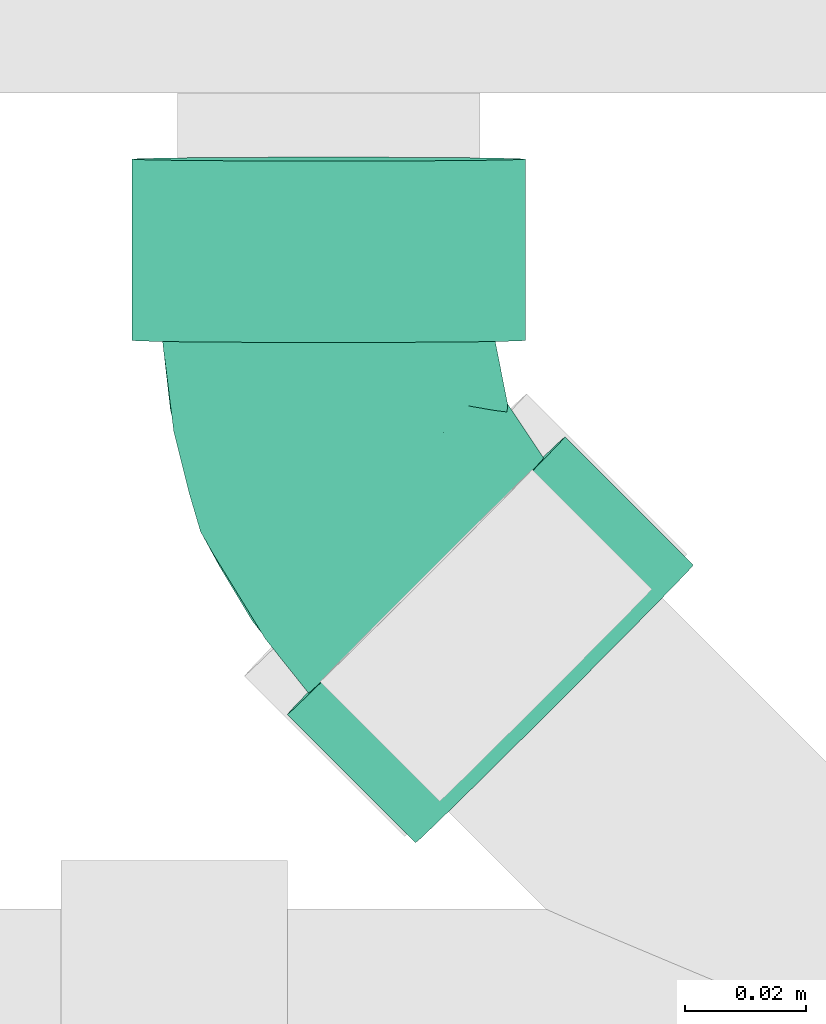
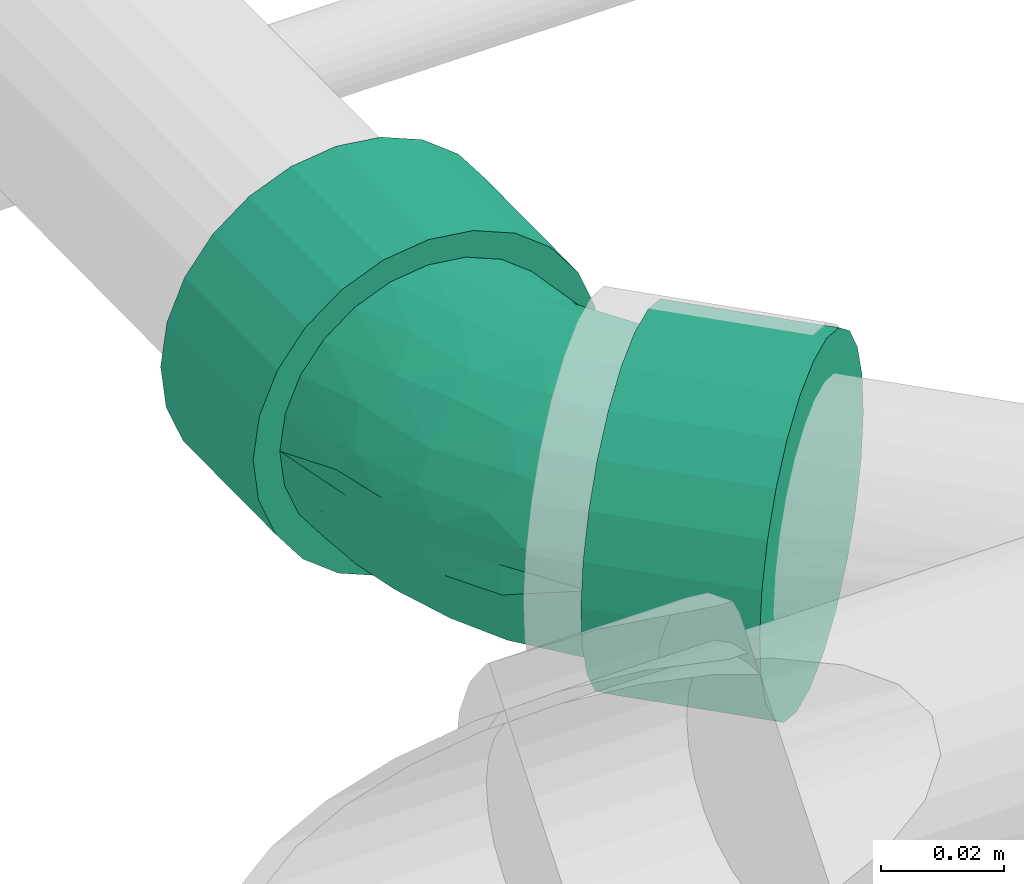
# One storey, part 28 of 35: 1 flow fitting.
"""IFC2X3 building model written with IfcOpenShell, lengths in millimetres."""

from ifc_helpers import new_model, entity, si_unit, converted_unit, derived_unit, direction, frame, origin_with_axes, place, context, subcontext, project, spatial, open_shell, surface_model, source, transform, mapped, type_object, element, save


model = new_model("IFC2X3")

# Units and contexts
model_context = context("Model", 3, precision=0.01, world=frame((0.0, 4.29681676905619e-09, 0.0)), true_north=direction((4.01073788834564e-13, 1.0)))
plan_context = context("Plan", 3, precision=0.01, world=frame((0.0, 4.29681676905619e-09, 0.0)), true_north=direction((4.01073788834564e-13, 1.0)))
body_context = subcontext(model_context, "Body", "Model", "MODEL_VIEW")
ifc_project = project(units=[converted_unit("PLANEANGLEUNIT", "DEGREE", entity("IfcPositiveLengthMeasure", 0.0174532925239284), si_unit("PLANEANGLEUNIT", "RADIAN"), dimensions=[0, 0, 0, 0, 0, 0, 0]), si_unit("AREAUNIT", "SQUARE_METRE"), si_unit("LENGTHUNIT", "METRE", prefix="MILLI"), si_unit("MASSUNIT", "GRAM", prefix="KILO"), si_unit("POWERUNIT", "WATT"), si_unit("PRESSUREUNIT", "PASCAL"), si_unit("FORCEUNIT", "NEWTON", prefix="KILO"), si_unit("ELECTRICVOLTAGEUNIT", "VOLT"), si_unit("ELECTRICCURRENTUNIT", "AMPERE"), si_unit("THERMODYNAMICTEMPERATUREUNIT", "DEGREE_CELSIUS"), si_unit("TIMEUNIT", "SECOND"), si_unit("VOLUMEUNIT", "CUBIC_METRE"), derived_unit("LINEARVELOCITYUNIT", [(si_unit("LENGTHUNIT", "METRE"), 1), (si_unit("TIMEUNIT", "SECOND"), -1)]), derived_unit("VOLUMETRICFLOWRATEUNIT", [(si_unit("VOLUMEUNIT", "CUBIC_METRE"), 1), (si_unit("TIMEUNIT", "SECOND"), -1)]), derived_unit("THERMALTRANSMITTANCEUNIT", [(si_unit("POWERUNIT", "WATT"), 1), (si_unit("THERMODYNAMICTEMPERATUREUNIT", "KELVIN"), -1), (si_unit("AREAUNIT", "SQUARE_METRE"), -1)]), derived_unit("SOUNDPRESSUREUNIT", [(si_unit("PRESSUREUNIT", "PASCAL"), 1)])], contexts=[model_context, plan_context])

# Site, building, storey
site_placement = place(None, frame((0.0, -4.29681676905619e-09, 0.0), z_axis=(0.0, 0.0, 1.0), x_axis=(1.0, 0.0, 0.0)))
site = spatial("IfcSite", under=ifc_project, at=site_placement, Name="ENGM", CompositionType="ELEMENT")
building_placement = place(site_placement, frame((0.0, 4.29681676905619e-09, 0.0), z_axis=(0.0, 0.0, 1.0), x_axis=(1.0, 0.0, 0.0)))
building = spatial("IfcBuilding", under=site, at=building_placement, Name="TH", CompositionType="ELEMENT")
storey_placement = place(building_placement, frame((0.0, 0.0, 210200.0), z_axis=(0.0, 0.0, 1.0), x_axis=(1.0, 0.0, 0.0)))
storey = spatial("IfcBuildingStorey", under=building, at=storey_placement, Name="Nivå F - 0,7 m", CompositionType="ELEMENT", Elevation=210200.0)

# Flow fitting
pipe_fitting_type = type_object("IfcPipeFittingType", Name="magi_sewer_bend_001 2", PredefinedType="BEND")
shared_shape = source(origin_with_axes(), body_context, "Body", "SurfaceModel", [
    surface_model("IfcShellBasedSurfaceModel", [(-52.78041, -16.25, -28.14582), (-52.78041, 0.0, -32.5), (-52.78041, -8.41162, -31.39259), (-52.78041, -31.39259, -8.41162), (-52.78041, -22.98097, -22.98097), (-52.78041, 16.25, -28.14582), (-52.78041, -28.14582, -16.25), (-52.78041, 31.39259, 8.41162), (-52.78041, 22.98097, -22.98097), (-52.78041, 8.41162, -31.39259), (-52.78041, 31.39259, -8.41162), (-52.78041, 28.14582, -16.25), (-52.78041, -32.5, 0.0), (-52.78041, -31.39259, 8.41162), (-52.78041, 0.0, 32.5), (-52.78041, -28.14582, 16.25), (-52.78041, -16.25, 28.14582), (-52.78041, -22.98097, 22.98097), (-52.78041, -8.41162, 31.39259), (-52.78041, 22.98097, 22.98097), (-52.78041, 28.14582, 16.25), (-52.78041, 32.5, 0.0), (-52.78041, 8.41162, 31.39259), (-52.78041, 16.25, 28.14582), (-22.78041, 0.0, 32.5), (-22.78041, -8.41162, 31.39259), (-22.78041, -16.25, 28.14582), (-22.78041, -28.14582, 16.25), (-22.78041, -31.39259, 8.41162), (-22.78041, -22.98097, 22.98097), (-22.78041, 31.39259, 8.41162), (-22.78041, 22.98097, 22.98097), (-22.78041, 16.25, 28.14582), (-22.78041, 8.41162, 31.39259), (-22.78041, 28.14582, 16.25), (-22.78041, 31.39259, -8.41162), (-22.78041, 32.5, 0.0), (-22.78041, -16.25, -28.14582), (-22.78041, -31.39259, -8.41162), (-22.78041, -22.98097, -22.98097), (-22.78041, -28.14582, -16.25), (-22.78041, -8.41162, -31.39259), (-22.78041, 0.0, -32.5), (-22.78041, 22.98097, -22.98097), (-22.78041, 28.14582, -16.25), (-22.78041, 8.41162, -31.39259), (-22.78041, 16.25, -28.14582), (-22.78041, -32.5, 0.0), (15.12594, 59.51867, 8.41162), (17.42165, 57.22277, 16.25), (21.0736, 53.57051, 22.98097), (31.37527, 43.268, 31.39259), (17.42165, 57.22277, -16.25), (25.83292, 48.8108, 28.14582), (43.2706, 31.37168, 31.39259), (31.37527, 43.268, -31.39259), (14.34291, 60.30177, 0.0), (15.12594, 59.51867, -8.41162), (21.0736, 53.57051, -22.98097), (25.83292, 48.8108, -28.14582), (37.32293, 37.31984, 32.5), (48.81294, 25.82888, 28.14582), (53.57226, 21.06917, 22.98097), (57.22421, 17.41691, 16.25), (59.51993, 15.12101, 8.41162), (60.30295, 14.33792, 0.0), (43.2706, 31.37168, -31.39259), (53.57226, 21.06917, -22.98097), (48.81294, 25.82888, -28.14582), (37.32293, 37.31984, -32.5), (57.22421, 17.41691, -16.25), (59.51993, 15.12101, -8.41162), (39.08887, -6.87441, 0.0), (38.30584, -6.09132, 8.41162), (36.01013, -3.79541, 16.25), (32.35818, -0.14316, 22.98097), (27.59886, 4.61656, 28.14582), (36.01013, -3.79541, -16.25), (22.05652, 10.15936, 31.39259), (22.05652, 10.15936, -31.39259), (32.35818, -0.14316, -22.98097), (38.30584, -6.09132, -8.41162), (27.59886, 4.61656, -28.14582), (10.16118, 22.05568, -31.39259), (16.10885, 16.10752, -32.5), (16.10885, 16.10752, 32.5), (10.16118, 22.05568, 31.39259), (-0.14048, 32.35819, -22.98097), (4.61884, 27.59848, 28.14582), (-0.14048, 32.35819, 22.98097), (-3.79243, 36.01045, 16.25), (-6.08814, 38.30635, 8.41162), (4.61884, 27.59848, -28.14582), (-6.08814, 38.30635, -8.41162), (-3.79243, 36.01045, -16.25), (-6.87117, 39.08944, 0.0), (-22.78041, 7.11752, -26.56296), (-22.78041, 0.0, -27.5), (-22.78041, 19.44544, -19.44544), (-22.78041, 13.75, -23.8157), (-22.78041, -23.8157, -13.75), (-22.78041, 23.8157, -13.75), (-22.78041, 26.56296, 7.11752), (-22.78041, -7.11752, -26.56296), (-22.78041, -13.75, -23.8157), (-22.78041, -19.44544, -19.44544), (-22.78041, -26.56296, -7.11752), (-22.78041, -27.5, 0.0), (-22.78041, -23.8157, 13.75), (-22.78041, 26.56296, -7.11752), (-22.78041, 23.8157, 13.75), (-22.78041, 13.75, 23.8157), (-22.78041, 19.44544, 19.44544), (-22.78041, 7.11752, 26.56296), (-22.78041, 0.0, 27.5), (-22.78041, -19.44544, 19.44544), (-22.78041, -13.75, 23.8157), (-22.78041, -26.56296, 7.11752), (-22.78041, -7.11752, 26.56296), (-22.78041, 27.5, 0.0), (16.10885, 16.10752, -27.5), (11.07621, 21.14057, -26.56296), (6.38654, 25.83064, -23.8157), (32.9484, -0.73342, 13.75), (-0.73069, 32.94846, -13.75), (-2.67322, 34.89114, -7.11752), (2.35942, 29.85809, -19.44544), (32.9484, -0.73342, -13.75), (25.83117, 6.3844, -23.8157), (29.85828, 2.35695, -19.44544), (21.14149, 11.07446, -26.56296), (35.55348, -3.33873, 0.0), (34.89092, -2.67611, -7.11752), (-0.73069, 32.94846, 13.75), (-3.33578, 35.55376, 0.0), (-2.67322, 34.89114, 7.11752), (6.38654, 25.83064, 23.8157), (11.07621, 21.14057, 26.56296), (2.35942, 29.85809, 19.44544), (16.10885, 16.10752, 27.5), (25.83117, 6.3844, 23.8157), (29.85828, 2.35695, 19.44544), (34.89092, -2.67611, 7.11752), (21.14149, 11.07446, 26.56296), (-10.89596, -10.08409, 25.13362), (-6.08315, -15.54243, 21.22013), (2.82363, -6.81725, 24.78716), (-8.87886, -21.03228, 16.10235), (21.15001, -8.59465, 16.10235), (-8.20657, -2.6478, 27.13568), (-10.56525, 11.4435, 25.7086), (-2.61535, 6.31438, 27.40335), (-13.77805, 3.81067, 27.33311), (0.81673, 16.53199, 25.6673), (4.97109, 13.01656, 27.09997), (7.00389, -16.90987, 15.32507), (14.83516, 0.57347, 25.13362), (-11.32802, 27.34985, 11.29811), (-12.12615, 23.06281, 17.35432), (-7.81088, 18.85823, 22.45108), (2.36841, -23.11852, 4.86168), (12.57458, -19.06073, 4.86168), (8.1316, -19.63257, 9.57021), (-6.99551, -24.36036, 0.0), (-7.74839, -25.65088, 5.00997), (26.50151, -10.52165, 5.28923), (20.30892, -13.33803, 9.55013), (-11.01457, 29.4666, 5.77803), (-4.93015, -23.79178, 9.55013), (7.67536, 3.93033, 27.13568), (15.29131, -6.68936, 21.22013), (8.78939, -21.22072, 0.0), (22.17144, -12.27972, 0.0), (-12.25714, 29.5931, 0.0), (4.61563, -11.14376, 21.93003), (-8.20657, -2.6478, -27.13568), (14.6718, -18.02259, -4.86168), (4.58548, -22.36973, -4.86168), (8.1316, -19.63257, -9.57021), (7.67536, 3.93033, -27.13568), (-12.26694, 11.11287, -25.6673), (-12.71895, 5.68953, -27.09997), (-7.73236, 24.88268, -17.35431), (15.29132, -6.68936, -21.22013), (-11.32802, 27.34985, -11.29811), (20.30892, -13.33803, -9.55013), (-13.04637, 28.62506, -5.77803), (-0.62037, 15.56256, -25.70861), (-11.30055, -26.17886, -5.28923), (-4.93015, -23.79178, -9.55013), (7.00389, -16.90987, -15.32507), (21.15001, -8.59465, -16.10235), (-8.87886, -21.03228, -16.10235), (-6.08315, -15.54243, -21.22013), (4.61563, -11.14376, -21.93003), (-10.89596, -10.08409, -25.13362), (2.82363, -6.81725, -24.78716), (14.83516, 0.57347, -25.13362), (-2.61535, 6.31438, -27.40335), (-7.81088, 18.85823, -22.45108), (23.61633, -12.65995, -5.00997), (7.04851, 12.43681, -27.33311)], [open_shell([[[0, 1, 2]], [[3, 0, 4]], [[5, 0, 3]], [[3, 4, 6]], [[3, 7, 8]], [[1, 5, 9]], [[1, 0, 5]], [[8, 10, 11]], [[5, 3, 8]], [[8, 7, 10]], [[3, 12, 13]], [[14, 13, 15]], [[16, 15, 17]], [[16, 18, 14]], [[16, 14, 15]], [[13, 14, 7]], [[7, 19, 20]], [[21, 10, 7]], [[19, 22, 23]], [[19, 7, 14]], [[22, 19, 14]], [[7, 3, 13]], [[24, 25, 26]], [[24, 26, 27]], [[27, 28, 24]], [[27, 26, 29]], [[24, 28, 30]], [[24, 31, 32]], [[32, 33, 24]], [[31, 30, 34]], [[30, 31, 24]], [[30, 35, 36]], [[30, 28, 37]], [[28, 38, 37]], [[39, 38, 40]], [[41, 30, 37]], [[37, 38, 39]], [[30, 41, 42]], [[35, 43, 44]], [[35, 30, 43]], [[43, 45, 46]], [[45, 43, 42]], [[42, 43, 30]], [[38, 28, 47]], [[35, 10, 36]], [[44, 11, 35]], [[5, 43, 46]], [[44, 43, 8]], [[9, 46, 45]], [[35, 11, 10]], [[10, 21, 36]], [[9, 5, 46]], [[8, 43, 5]], [[8, 11, 44]], [[1, 9, 45]], [[45, 42, 1]], [[2, 42, 41]], [[0, 41, 37]], [[6, 40, 38]], [[3, 38, 47]], [[41, 0, 2]], [[0, 37, 39]], [[0, 39, 4]], [[39, 40, 4]], [[4, 40, 6]], [[6, 38, 3]], [[47, 12, 3]], [[42, 2, 1]], [[28, 13, 47]], [[27, 15, 28]], [[16, 29, 26]], [[27, 29, 17]], [[18, 26, 25]], [[28, 15, 13]], [[13, 12, 47]], [[18, 16, 26]], [[17, 29, 16]], [[17, 15, 27]], [[14, 18, 25]], [[25, 24, 14]], [[23, 32, 31]], [[20, 34, 30]], [[31, 34, 19]], [[7, 30, 36]], [[33, 23, 22]], [[33, 32, 23]], [[22, 14, 33]], [[31, 19, 23]], [[34, 20, 19]], [[7, 20, 30]], [[36, 21, 7]], [[33, 14, 24]], [[48, 49, 50]], [[48, 50, 51]], [[48, 51, 52]], [[51, 50, 53]], [[54, 55, 51]], [[56, 52, 57]], [[56, 48, 52]], [[58, 55, 59]], [[55, 58, 52]], [[51, 55, 52]], [[51, 60, 54]], [[54, 61, 62]], [[54, 62, 63]], [[63, 64, 65]], [[63, 65, 54]], [[54, 65, 66]], [[66, 67, 68]], [[69, 55, 66]], [[65, 67, 66]], [[65, 70, 67]], [[71, 70, 65]], [[66, 55, 54]], [[72, 73, 74]], [[72, 74, 75]], [[72, 76, 77]], [[76, 72, 75]], [[77, 76, 78]], [[77, 79, 80]], [[77, 81, 72]], [[80, 79, 82]], [[78, 79, 77]], [[79, 83, 84]], [[79, 78, 85]], [[86, 87, 85]], [[88, 87, 86]], [[89, 90, 91]], [[88, 89, 87]], [[89, 91, 87]], [[83, 87, 92]], [[79, 87, 83]], [[87, 93, 94]], [[87, 91, 93]], [[95, 93, 91]], [[87, 79, 85]], [[83, 55, 84]], [[92, 59, 83]], [[52, 87, 94]], [[92, 87, 58]], [[57, 94, 93]], [[83, 59, 55]], [[55, 69, 84]], [[57, 52, 94]], [[58, 87, 52]], [[58, 59, 92]], [[56, 57, 93]], [[93, 95, 56]], [[48, 95, 91]], [[49, 91, 90]], [[53, 88, 86]], [[51, 86, 85]], [[91, 49, 48]], [[49, 90, 89]], [[49, 89, 50]], [[89, 88, 50]], [[50, 88, 53]], [[53, 86, 51]], [[85, 60, 51]], [[95, 48, 56]], [[78, 54, 85]], [[76, 61, 78]], [[63, 75, 74]], [[76, 75, 62]], [[64, 74, 73]], [[78, 61, 54]], [[54, 60, 85]], [[64, 63, 74]], [[62, 75, 63]], [[62, 61, 76]], [[65, 64, 73]], [[73, 72, 65]], [[70, 77, 80]], [[68, 82, 79]], [[80, 82, 67]], [[66, 79, 84]], [[81, 70, 71]], [[81, 77, 70]], [[71, 65, 81]], [[80, 67, 70]], [[82, 68, 67]], [[66, 68, 79]], [[84, 69, 66]], [[81, 65, 72]], [[96, 97, 98]], [[99, 96, 98]], [[100, 101, 97]], [[98, 97, 101]], [[101, 100, 102]], [[103, 104, 97]], [[104, 105, 97]], [[106, 107, 100]], [[100, 97, 105]], [[107, 108, 100]], [[109, 101, 102]], [[110, 102, 100]], [[110, 100, 108]], [[111, 112, 108]], [[108, 112, 110]], [[113, 111, 114]], [[115, 116, 108]], [[108, 107, 117]], [[118, 114, 116]], [[108, 116, 114]], [[108, 114, 111]], [[102, 119, 109]], [[120, 121, 122]], [[123, 120, 122]], [[124, 125, 122]], [[124, 122, 126]], [[127, 120, 123]], [[128, 127, 129]], [[127, 128, 130]], [[127, 131, 132]], [[127, 130, 120]], [[127, 123, 131]], [[125, 133, 122]], [[134, 135, 133]], [[122, 133, 123]], [[136, 137, 133]], [[136, 133, 138]], [[139, 133, 137]], [[123, 140, 141]], [[142, 131, 123]], [[140, 139, 143]], [[139, 140, 123]], [[133, 139, 123]], [[125, 134, 133]], [[144, 145, 146]], [[115, 147, 145]], [[116, 115, 145]], [[123, 141, 148]], [[114, 118, 149]], [[118, 116, 144]], [[111, 113, 150]], [[151, 152, 149]], [[114, 152, 113]], [[137, 153, 154]], [[145, 147, 155]], [[140, 143, 156]], [[157, 110, 158]], [[159, 112, 111]], [[160, 161, 162]], [[163, 160, 164]], [[165, 142, 166]], [[157, 167, 102]], [[108, 117, 168]], [[119, 102, 167]], [[102, 110, 157]], [[115, 108, 147]], [[150, 159, 111]], [[168, 162, 155]], [[107, 163, 164]], [[136, 138, 159]], [[139, 154, 169]], [[141, 140, 170]], [[133, 135, 157]], [[169, 143, 139]], [[160, 163, 171]], [[141, 170, 148]], [[151, 154, 153]], [[170, 140, 156]], [[108, 168, 147]], [[172, 165, 161]], [[142, 165, 131]], [[152, 150, 113]], [[167, 157, 135]], [[173, 167, 134]], [[148, 155, 166]], [[145, 174, 146]], [[146, 169, 149]], [[137, 136, 153]], [[146, 156, 169]], [[157, 158, 133]], [[151, 149, 169]], [[138, 133, 158]], [[159, 150, 153]], [[144, 149, 118]], [[110, 112, 158]], [[142, 123, 166]], [[155, 147, 168]], [[174, 155, 170]], [[155, 148, 170]], [[166, 123, 148]], [[112, 159, 158]], [[138, 158, 159]], [[159, 153, 136]], [[151, 153, 150]], [[145, 144, 116]], [[149, 144, 146]], [[169, 156, 143]], [[170, 156, 146]], [[169, 154, 151]], [[139, 137, 154]], [[149, 152, 114]], [[150, 152, 151]], [[160, 162, 168]], [[166, 155, 162]], [[160, 168, 164]], [[161, 160, 171]], [[172, 161, 171]], [[166, 162, 161]], [[168, 117, 164]], [[107, 164, 117]], [[155, 174, 145]], [[170, 146, 174]], [[134, 167, 135]], [[167, 173, 119]], [[161, 165, 166]], [[131, 165, 172]], [[103, 97, 175]], [[176, 177, 178]], [[120, 130, 179]], [[180, 181, 96]], [[101, 182, 98]], [[128, 129, 183]], [[184, 182, 101]], [[127, 132, 185]], [[109, 186, 184]], [[122, 121, 187]], [[188, 106, 189]], [[99, 180, 96]], [[163, 188, 177]], [[190, 191, 185]], [[106, 188, 107]], [[192, 105, 193]], [[105, 104, 193]], [[194, 190, 193]], [[106, 100, 189]], [[105, 192, 100]], [[195, 104, 103]], [[192, 190, 189]], [[196, 175, 179]], [[197, 179, 130]], [[119, 173, 186]], [[176, 172, 171]], [[134, 125, 186]], [[198, 179, 175]], [[126, 122, 199]], [[184, 101, 109]], [[124, 182, 184]], [[195, 193, 104]], [[187, 199, 122]], [[181, 175, 97]], [[199, 187, 180]], [[98, 199, 99]], [[172, 176, 200]], [[120, 201, 121]], [[197, 130, 128]], [[185, 178, 190]], [[129, 127, 191]], [[183, 196, 197]], [[183, 191, 190]], [[196, 195, 175]], [[131, 172, 200]], [[124, 126, 182]], [[201, 187, 121]], [[191, 183, 129]], [[183, 194, 196]], [[201, 179, 198]], [[198, 181, 180]], [[125, 184, 186]], [[127, 185, 191]], [[125, 124, 184]], [[190, 192, 193]], [[189, 100, 192]], [[126, 199, 182]], [[98, 182, 199]], [[199, 180, 99]], [[198, 180, 187]], [[175, 195, 103]], [[193, 195, 196]], [[183, 197, 128]], [[179, 197, 196]], [[175, 181, 198]], [[97, 96, 181]], [[179, 201, 120]], [[187, 201, 198]], [[176, 178, 185]], [[189, 190, 178]], [[176, 185, 200]], [[177, 176, 171]], [[163, 177, 171]], [[189, 178, 177]], [[185, 132, 200]], [[131, 200, 132]], [[190, 194, 183]], [[193, 196, 194]], [[119, 186, 109]], [[186, 173, 134]], [[177, 188, 189]], [[107, 188, 163]]])]),
])
flow_fitting_placement = place(storey_placement, frame((898747.47481, 483587.37429, 318.364380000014), z_axis=(0.00414200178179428, -0.0099990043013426, 0.999941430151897), x_axis=(3.76901613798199e-09, -0.999950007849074, -0.00999909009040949)))
element("IfcFlowFitting", 1, at=flow_fitting_placement, inside=storey, type_object=pipe_fitting_type, Name="magi_sewer_bend_001 2", context=body_context, shape_type="MappedRepresentation", body=[
    mapped(shared_shape, transform((0.0, 0.0, 0.0), scale=1.0)),
])

save(model, "model.ifc")
